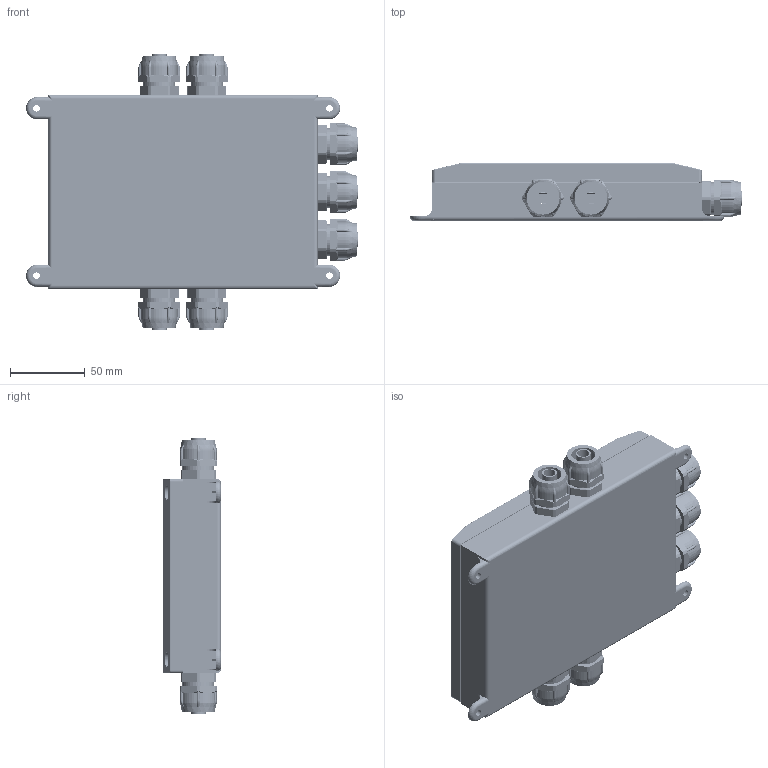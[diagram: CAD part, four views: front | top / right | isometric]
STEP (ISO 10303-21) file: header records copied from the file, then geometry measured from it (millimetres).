
FILE_DESCRIPTION((''),'1');
FILE_NAME('ETLB_4-channel_ABS-R.step','2023-11-06T13:17:26',(''),(''),'','','');
FILE_SCHEMA(('AUTOMOTIVE_DESIGN { 1 0 10303 214 1 1 1 1 }'));
Products named in the file (38): ETLB cover 01; ETLB body 01; ETLB seal 01; ETLB washer 01; ETLB screw 01; ETLB 4-channel_ABS-R; ETLB part 02; ETLB screw 02; ETLB part 03; ETLB screw 04; ETLB part 04; ETLB part 05; ETLB display 01; ETLB display 02; ETLB spacer 01; ETLB spacer 02; ETLB part 06; ETLB part 07; ETLB part 08; ETLB part 09; ETLB button 01; ETLB part 10; ETLB cover 02; ETLB nut 01; ETLB connector 01; 1; 12; 13; ETLB part 12; ETLB part 13; 2; 22; 23; ETLB circuit board 01; ETLB housing 01; ETLB body 03; ETLB part 15; ETLB part 16
Assembly tree (93 placements, depth 6):
  ETLB 4-channel_ABS-R
    ETLB cover 01
      ETLB body 01
      ETLB seal 01
      ETLB washer 01  x4
      ETLB screw 01  x4
    ETLB part 02
      ETLB screw 02  x4
      ETLB part 03
        ETLB screw 04  x4
        ETLB part 04
        ETLB part 05
        ETLB display 01
        ETLB display 02
        ETLB spacer 01  x2
        ETLB spacer 02  x4
        ETLB part 06  x4
        ETLB part 07
        ETLB part 08
        ETLB part 09  x2
        ETLB button 01  x4
      ETLB part 10
        ETLB cover 02
        ETLB nut 01  x4
        ETLB connector 01
        ETLB part 12
          1
            12  x10
            13  x10
          ETLB part 13
          2
            22  x4
            23
      ETLB circuit board 01
    ETLB housing 01
      ETLB body 03
      ETLB part 15  x4
    ETLB part 16  x7
Bounding box: 222 x 38.5 x 184 mm (x, y, z)
Volume: 364065.5 mm3; surface area: 268043.5 mm2
Topology: 85 solids, 92 shells, 7254 faces, 17859 edges, 11421 vertices
Faces by surface type: plane 4110, cylinder 2062, cone 678, torus 352, sphere 48, bspline 4
Entity records: 132757 total; most frequent: CARTESIAN_POINT 25213, DIRECTION 19716, ORIENTED_EDGE 19524, EDGE_CURVE 9776, LINE 6584, VECTOR 6584, AXIS2_PLACEMENT_3D 6566, VERTEX_POINT 6312
